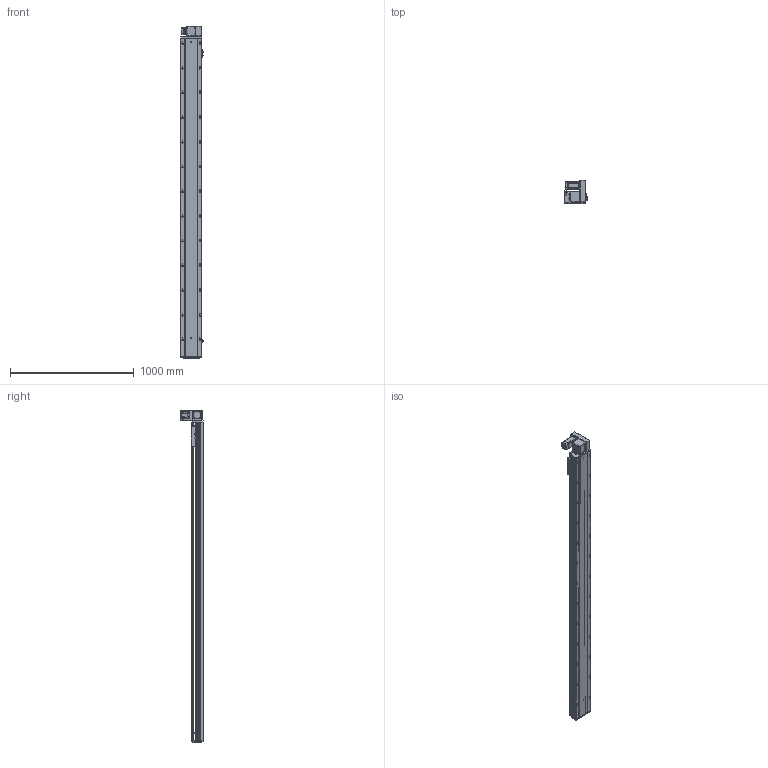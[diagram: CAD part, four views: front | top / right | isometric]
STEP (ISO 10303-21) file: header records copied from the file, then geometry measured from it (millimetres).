
FILE_DESCRIPTION (( 'STEP AP203' ), '1' );
FILE_NAME ('RY170-T-300-UR-P400W.SLDASM_2300.step', '2021-03-01T09:29:33', ( '盈信电脑' ), ( '东莞市道滘镇水果街19号' ), 'SwSTEP 2.0', 'SolidWorks 2012', '' );
FILE_SCHEMA (( 'CONFIG_CONTROL_DESIGN' ));
Products named in the file (18): RY170-T蹟翐M4; 15; 滅袉蝶18-10; RY170-T-300-UR-P400W.SLDASM_2300; RY120-T主同步轮轴承压盖; RY170-T肮祭謫裔啣; RY170-T肮祭湍揤踡輸1; RY170-T肮祭湍揤踡輸2; RY170肮祭謫萇儂欶; RY170翋肮祭謫釱; RY170同步轮电机安装板(400W); RY170肮祭謫ヶ裔啣; 覜茼ん672; RY170綴裔啣; RY170外置感应片(200共用）; RY170-T-300肮祭謫倰第菁釱-DR_2300; RY170肮祭湍臏賑輸; RY170-T-300肮祭謫倰第裔啣-DR_2300
Assembly tree (22 placements, depth 2):
  RY170-T-300-UR-P400W.SLDASM_2300
    RY170-T-300肮祭謫倰第菁釱-DR_2300
    RY170肮祭湍臏賑輸
    RY170-T-300肮祭謫倰第裔啣-DR_2300
    RY170綴裔啣
    覜茼ん672  x3
    RY170外置感应片(200共用）
    RY170肮祭謫ヶ裔啣
    RY170翋肮祭謫釱
    RY170同步轮电机安装板(400W)
    RY170肮祭謫萇儂欶
    RY170-T肮祭湍揤踡輸1  x2
    RY170-T肮祭湍揤踡輸2  x2
    RY120-T主同步轮轴承压盖
    RY170-T肮祭謫裔啣
    RY170-T蹟翐M4
    滅袉蝶18-10  x2
    15
Bounding box: 183.7 x 182 x 2688 mm (x, y, z)
Volume: 12337908.5 mm3; surface area: 4263219.6 mm2
Topology: 22 solids, 22 shells, 3080 faces, 8662 edges, 5513 vertices
Faces by surface type: cylinder 1454, plane 1272, cone 324, bspline 30
Entity records: 94272 total; most frequent: CARTESIAN_POINT 22094, ORIENTED_EDGE 14856, DIRECTION 14430, EDGE_CURVE 7428, AXIS2_PLACEMENT_3D 5139, VERTEX_POINT 4869, VECTOR 4152, LINE 4152
